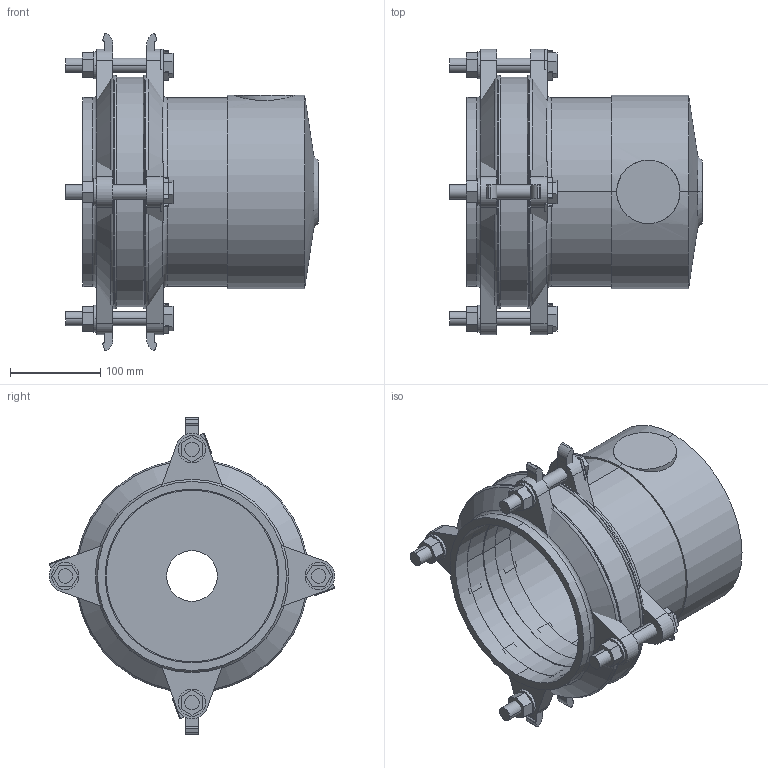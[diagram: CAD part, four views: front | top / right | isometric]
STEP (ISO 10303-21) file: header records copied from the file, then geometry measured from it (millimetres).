
FILE_DESCRIPTION(('STEP AP214'),'1');
FILE_NAME('HDA1004930 DN 150 axial.STP','2015-02-06T10:04:05',(' '),(' '),'Spatial InterOp 3D',' ',' ');
FILE_SCHEMA(('automotive_design'));
Length unit declared in the file: millimetre
Products named in the file (42): 3D-Objekt
Bounding box: 279 x 315.52 x 350 mm (x, y, z)
Volume: 2784280.6 mm3; surface area: 748065.8 mm2
Topology: 42 solids, 42 shells, 334 faces, 737 edges, 488 vertices
Faces by surface type: plane 226, cylinder 84, cone 12, torus 12
Entity records: 12992 total; most frequent: CARTESIAN_POINT 1732, DIRECTION 1707, ORIENTED_EDGE 1474, EDGE_CURVE 737, AXIS2_PLACEMENT_3D 596, LINE 515, VECTOR 515, VERTEX_POINT 488
